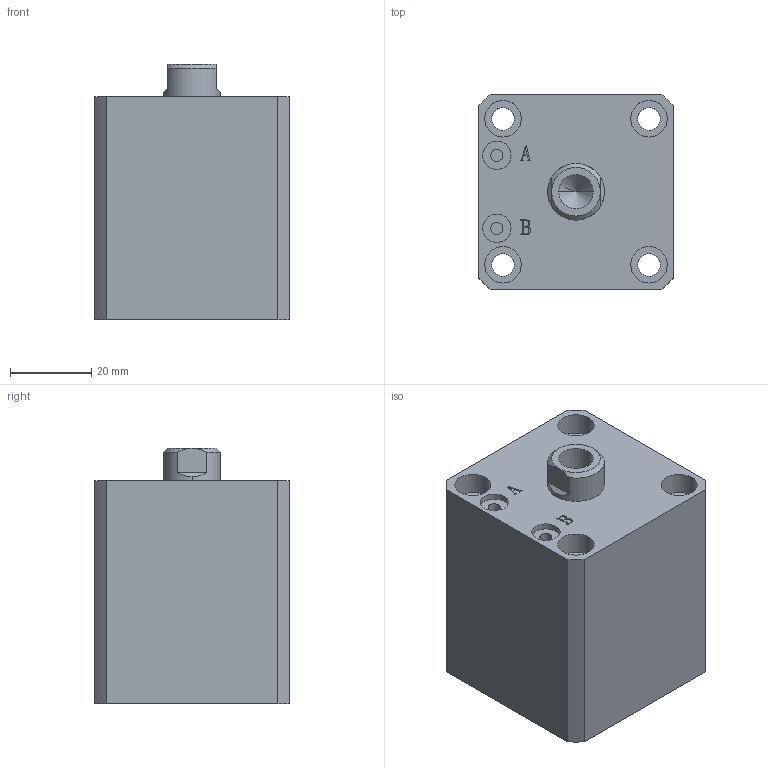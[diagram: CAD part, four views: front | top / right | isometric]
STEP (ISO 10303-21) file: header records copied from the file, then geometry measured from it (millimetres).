
FILE_DESCRIPTION (( 'STEP AP203' ), '1' );
FILE_NAME ('HTB-SDMA25-10N.STEP', '2019-10-07T10:50:31', ( '微软用户' ), ( '微软中国' ), 'SwSTEP 2.0', 'SolidWorks 2012', '' );
FILE_SCHEMA (( 'CONFIG_CONTROL_DESIGN' ));
Length unit declared in the file: millimetre
Products named in the file (3): HTB-SDMA25-10N; HTB-SDMA25-10N活塞杆; HTB-SDMA25-10掛极
Assembly tree (2 placements, depth 2):
  HTB-SDMA25-10N
    HTB-SDMA25-10掛极
    HTB-SDMA25-10N活塞杆
Bounding box: 48 x 48 x 63 mm (x, y, z)
Volume: 115189.7 mm3; surface area: 27177.3 mm2
Topology: 2 solids, 2 shells, 137 faces, 329 edges, 215 vertices
Faces by surface type: plane 65, cylinder 46, bspline 16, torus 6, cone 4
Entity records: 5072 total; most frequent: CARTESIAN_POINT 1592, ORIENTED_EDGE 654, DIRECTION 645, EDGE_CURVE 327, AXIS2_PLACEMENT_3D 232, VERTEX_POINT 215, LINE 181, VECTOR 181
